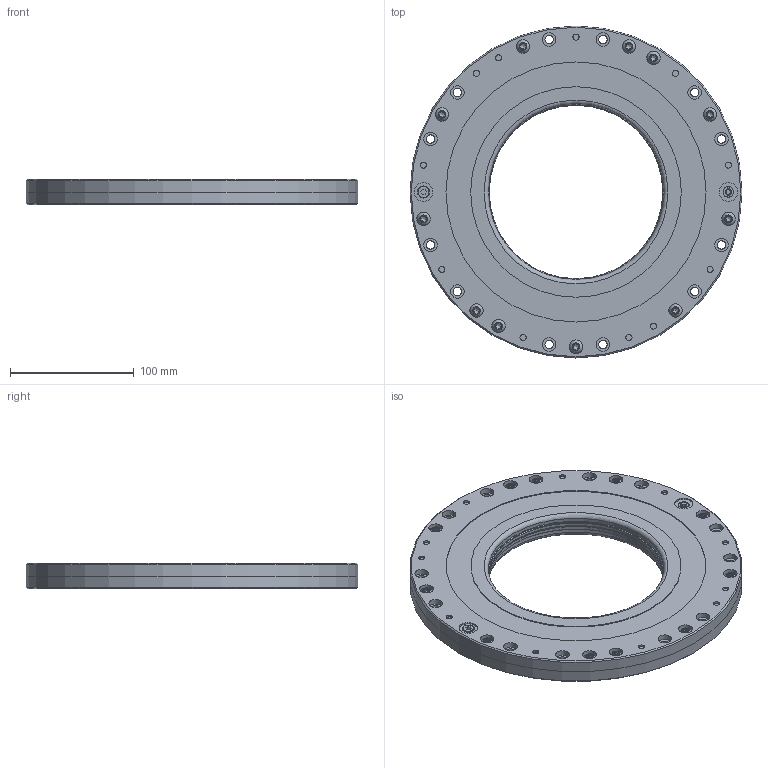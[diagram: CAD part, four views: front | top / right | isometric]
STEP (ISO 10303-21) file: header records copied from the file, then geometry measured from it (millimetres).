
FILE_DESCRIPTION(/* description */ ('Unknown'),/* implementation_level */ '2;1');
FILE_NAME(/* name */ '10120176_RC 140 N_4bar',/* time_stamp */ '2025-08-04T16:10:22+02:00',/* author */ ('Unknown'),/* organization */ ('Unknown'),/* preprocessor_version */ 'ST-DEVELOPER v19.4',/* originating_system */ 'Solid Edge',/* authorisation */ 'Unknown');
FILE_SCHEMA (('CONFIG_CONTROL_DESIGN'));
Length unit declared in the file: millimetre
Products named in the file (7): 10120176_RC 140 N_4bar; Linsenkopfschraube ISO 7380 TX M6 x 14 Ph 012.9; 34-00-0109-e001; Verschlussschraube G1;8 x 4,5; 34-06-0051-e001; 34-06-0064-e001; Gewindestift DIN 913 - M6x4 VA
Assembly tree (30 placements, depth 2):
  10120176_RC 140 N_4bar
    Linsenkopfschraube ISO 7380 TX M6 x 14 Ph 012.9  x22
    34-00-0109-e001  x2
    Verschlussschraube G1;8 x 4,5  x3
    34-06-0051-e001
    34-06-0064-e001
    Gewindestift DIN 913 - M6x4 VA
Bounding box: 268 x 268 x 20.4 mm (x, y, z)
Volume: 774393.4 mm3; surface area: 216478.7 mm2
Topology: 30 solids, 30 shells, 1249 faces, 2992 edges, 1867 vertices
Faces by surface type: cylinder 751, cone 202, plane 179, torus 95, sphere 22
Full cylindrical faces by diameter (mm): 1.5 x5, 4.917 x23, 5.6 x22, 6 x46, 6.8 x47, 7.4 x1, 8.4 x1, 8.566 x4, 9.728 x4, 10.5 x22, 11 x48, 15 x4, 140 x2, 142.4 x2, 170 x2, 210 x2, 268 x2
Entity records: 8822 total; most frequent: CARTESIAN_POINT 2001, DIRECTION 1060, ORIENTED_EDGE 900, AXIS2_PLACEMENT_3D 479, FACE_BOUND 466, EDGE_LOOP 464, EDGE_CURVE 450, VERTEX_POINT 348
